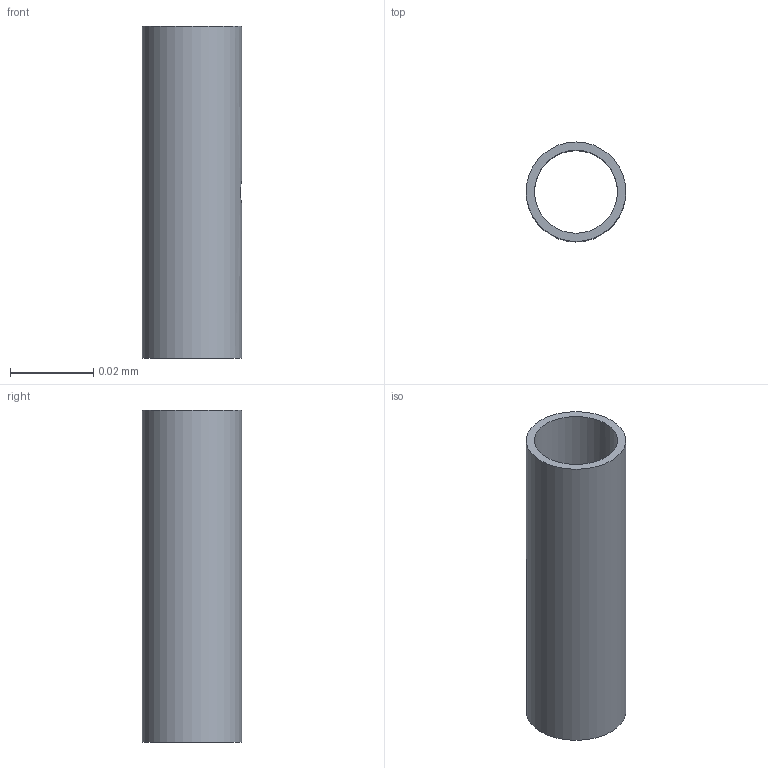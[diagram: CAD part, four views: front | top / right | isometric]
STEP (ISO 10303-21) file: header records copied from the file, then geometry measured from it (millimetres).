
FILE_DESCRIPTION(('Open CASCADE Model'),'2;1');
FILE_NAME('Open CASCADE Shape Model','2026-09-12T21:28:07',('Author'),( 'Open CASCADE'),'Open CASCADE STEP processor 7.8','Open CASCADE 7.8' ,'Unknown');
FILE_SCHEMA(('AUTOMOTIVE_DESIGN { 1 0 10303 214 1 1 1 1 }'));
Length unit declared in the file: millimetre
Products named in the file (1): Open CASCADE STEP translator 7.8 1
Bounding box: 0.02 x 0.02 x 0.08 mm (x, y, z)
Volume: 0 mm3; surface area: 0 mm2
Topology: 1 solids, 1 shells, 5 faces, 15 edges, 10 vertices
Faces by surface type: cylinder 3, plane 2
Full cylindrical faces by diameter (mm): 0.006 x1, 0.02 x1, 0.024 x1
Entity records: 587 total; most frequent: CARTESIAN_POINT 298, DIRECTION 43, ORIENTED_EDGE 30, PCURVE 30, DEFINITIONAL_REPRESENTATION 30, LINE 19, VECTOR 19, B_SPLINE_CURVE_WITH_KNOTS 18
